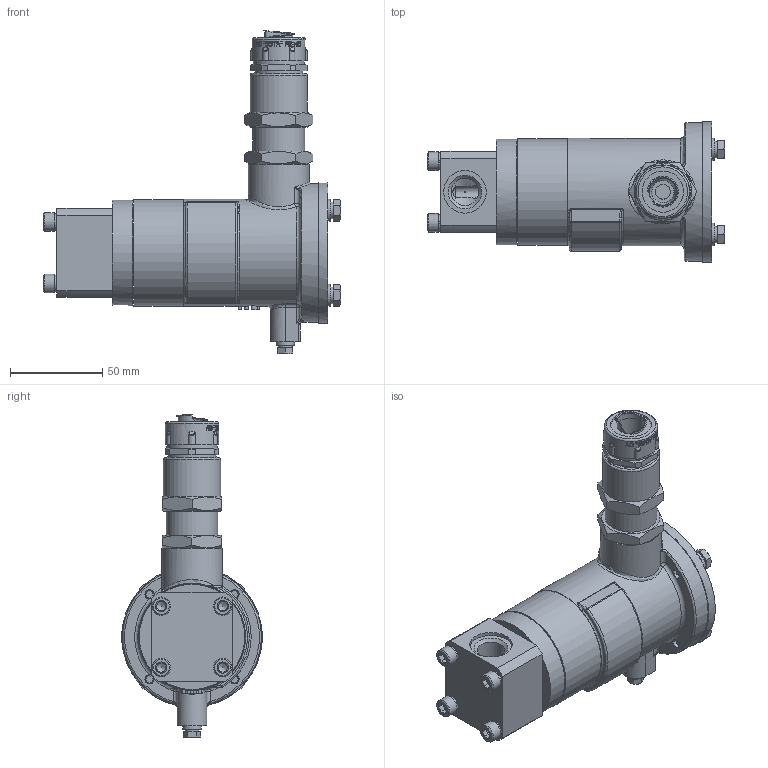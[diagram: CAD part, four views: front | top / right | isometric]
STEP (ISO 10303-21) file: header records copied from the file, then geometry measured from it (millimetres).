
FILE_DESCRIPTION(('STEP AP203'), '1');
FILE_NAME('ﾑﾅﾍﾑ DN8PN10-G3_8-0-ﾓﾊﾌ15', '', ('UNSPECIFIED'), ('UNSPECIFIED'), 'C3D Converter', 'C3D Toolkit', '');
FILE_SCHEMA(('CONFIG_CONTROL_DESIGN'));
Length unit declared in the file: millimetre
Bounding box: 160.9 x 76 x 175.2 mm (x, y, z)
Volume: 431246.1 mm3; surface area: 73103.3 mm2
Topology: 1 solids, 1 shells, 1373 faces, 3623 edges, 2342 vertices
Faces by surface type: plane 587, extrusion 399, cylinder 165, bspline 125, cone 72, torus 21, sphere 4
Full cylindrical faces by diameter (mm): 1.8 x1, 3.1 x2, 3.5 x4, 4.917 x8, 5 x5, 5.3 x1, 6 x8, 6.4 x4, 6.5 x5, 7 x5, 8 x1, 10 x6, 12 x5, 14.6 x1, 14.95 x2, 17 x1, 18.632 x1, 22 x1, 22.3 x1, 23 x2, 25 x1, 26 x2, 27.5 x1, 28 x2, 28.8 x1, 31 x1, 32 x1, 33 x1, 36 x1, 57 x1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
Entity records: 68643 total; most frequent: CARTESIAN_POINT 26922, ORIENTED_EDGE 6876, DIRECTION 4810, EDGE_CURVE 3438, VERTEX_POINT 2329, VECTOR 1960, B_SPLINE_CURVE_WITH_KNOTS 1663, EDGE_LOOP 1655
